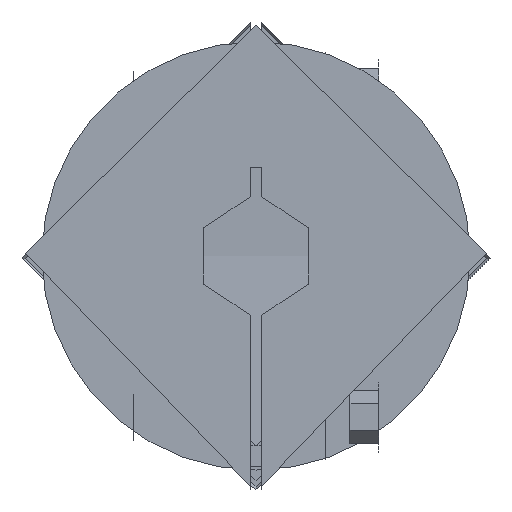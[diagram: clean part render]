
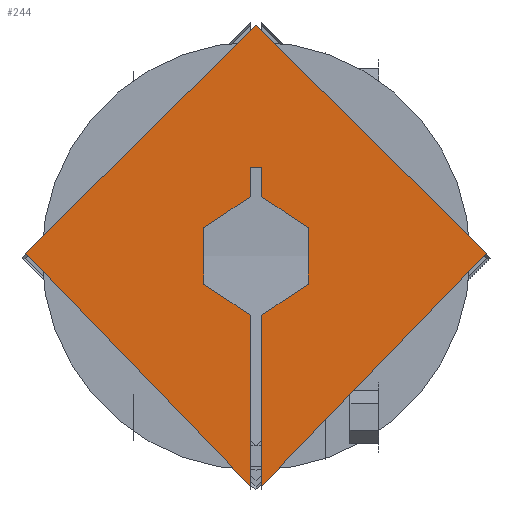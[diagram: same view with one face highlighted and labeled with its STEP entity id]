
A CAD part, left-side view. The second image highlights one B-rep face of the part: STEP entity #244.
In plain terms, the highlighted planar face has unit normal (-1, 0, 0).
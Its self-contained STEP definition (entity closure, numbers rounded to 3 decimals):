
#244 = ADVANCED_FACE( '', ( #600 ), #601, .T. );
#600 = FACE_OUTER_BOUND( '', #1207, .T. );
#601 = PLANE( '', #1208 );
#1207 = EDGE_LOOP( '', ( #1884, #1885, #1886, #1887, #1888, #1889, #1890, #1891 ) );
#1208 = AXIS2_PLACEMENT_3D( '', #1892, #1893, #1894 );
#1884 = ORIENTED_EDGE( '', *, *, #2692, .F. );
#1885 = ORIENTED_EDGE( '', *, *, #2666, .T. );
#1886 = ORIENTED_EDGE( '', *, *, #2649, .F. );
#1887 = ORIENTED_EDGE( '', *, *, #2693, .F. );
#1888 = ORIENTED_EDGE( '', *, *, #2694, .F. );
#1889 = ORIENTED_EDGE( '', *, *, #2695, .F. );
#1890 = ORIENTED_EDGE( '', *, *, #2696, .F. );
#1891 = ORIENTED_EDGE( '', *, *, #2697, .F. );
#1892 = CARTESIAN_POINT( '', ( 0., 0., 15.5 ) );
#1893 = DIRECTION( '', ( -1., 0., 0. ) );
#1894 = DIRECTION( '', ( 0., 0., 1. ) );
#2649 = EDGE_CURVE( '', #3078, #3080, #3081, .T. );
#2666 = EDGE_CURVE( '', #3103, #3080, #3106, .T. );
#2692 = EDGE_CURVE( '', #3103, #3140, #3141, .T. );
#2693 = EDGE_CURVE( '', #3142, #3078, #3143, .T. );
#2694 = EDGE_CURVE( '', #3144, #3142, #3145, .T. );
#2695 = EDGE_CURVE( '', #3146, #3144, #3147, .T. );
#2696 = EDGE_CURVE( '', #3148, #3146, #3149, .T. );
#2697 = EDGE_CURVE( '', #3140, #3148, #3150, .T. );
#3078 = VERTEX_POINT( '', #3712 );
#3080 = VERTEX_POINT( '', #3715 );
#3081 = LINE( '', #3716, #3717 );
#3103 = VERTEX_POINT( '', #3756 );
#3106 = CIRCLE( '', #3766, 60. );
#3140 = VERTEX_POINT( '', #3804 );
#3141 = LINE( '', #3805, #3806 );
#3142 = VERTEX_POINT( '', #3807 );
#3143 = CIRCLE( '', #3808, 15.5 );
#3144 = VERTEX_POINT( '', #3809 );
#3145 = LINE( '', #3810, #3811 );
#3146 = VERTEX_POINT( '', #3812 );
#3147 = LINE( '', #3813, #3814 );
#3148 = VERTEX_POINT( '', #3815 );
#3149 = LINE( '', #3816, #3817 );
#3150 = CIRCLE( '', #3818, 15.5 );
#3712 = CARTESIAN_POINT( '', ( 0., 1.5, -15.427 ) );
#3715 = CARTESIAN_POINT( '', ( 0., 1.5, -59.981 ) );
#3716 = CARTESIAN_POINT( '', ( 0., 1.5, 23. ) );
#3717 = VECTOR( '', #4795, 1000. );
#3756 = CARTESIAN_POINT( '', ( 0., -1.5, -59.981 ) );
#3766 = AXIS2_PLACEMENT_3D( '', #4814, #4815, #4816 );
#3804 = CARTESIAN_POINT( '', ( 0., -1.5, -15.427 ) );
#3805 = CARTESIAN_POINT( '', ( 0., -1.5, 23. ) );
#3806 = VECTOR( '', #4851, 1000. );
#3807 = CARTESIAN_POINT( '', ( 0., 1.5, 15.427 ) );
#3808 = AXIS2_PLACEMENT_3D( '', #4852, #4853, #4854 );
#3809 = CARTESIAN_POINT( '', ( 0., 1.5, 23. ) );
#3810 = CARTESIAN_POINT( '', ( 0., 1.5, 23. ) );
#3811 = VECTOR( '', #4855, 1000. );
#3812 = CARTESIAN_POINT( '', ( 0., -1.5, 23. ) );
#3813 = CARTESIAN_POINT( '', ( 0., 1.5, 23. ) );
#3814 = VECTOR( '', #4856, 1000. );
#3815 = CARTESIAN_POINT( '', ( 0., -1.5, 15.427 ) );
#3816 = CARTESIAN_POINT( '', ( 0., -1.5, 23. ) );
#3817 = VECTOR( '', #4857, 1000. );
#3818 = AXIS2_PLACEMENT_3D( '', #4858, #4859, #4860 );
#4795 = DIRECTION( '', ( 0., 0., -1. ) );
#4814 = CARTESIAN_POINT( '', ( 0., 0., 0. ) );
#4815 = DIRECTION( '', ( -1., 0., 0. ) );
#4816 = DIRECTION( '', ( 0., 0., 1. ) );
#4851 = DIRECTION( '', ( 0., 0., 1. ) );
#4852 = CARTESIAN_POINT( '', ( 0., 0., 0. ) );
#4853 = DIRECTION( '', ( -1., 0., 0. ) );
#4854 = DIRECTION( '', ( 0., 0., 1. ) );
#4855 = DIRECTION( '', ( 0., 0., -1. ) );
#4856 = DIRECTION( '', ( 0., 1., 0. ) );
#4857 = DIRECTION( '', ( 0., 0., 1. ) );
#4858 = CARTESIAN_POINT( '', ( 0., 0., 0. ) );
#4859 = DIRECTION( '', ( -1., 0., 0. ) );
#4860 = DIRECTION( '', ( 0., 0., 1. ) );
